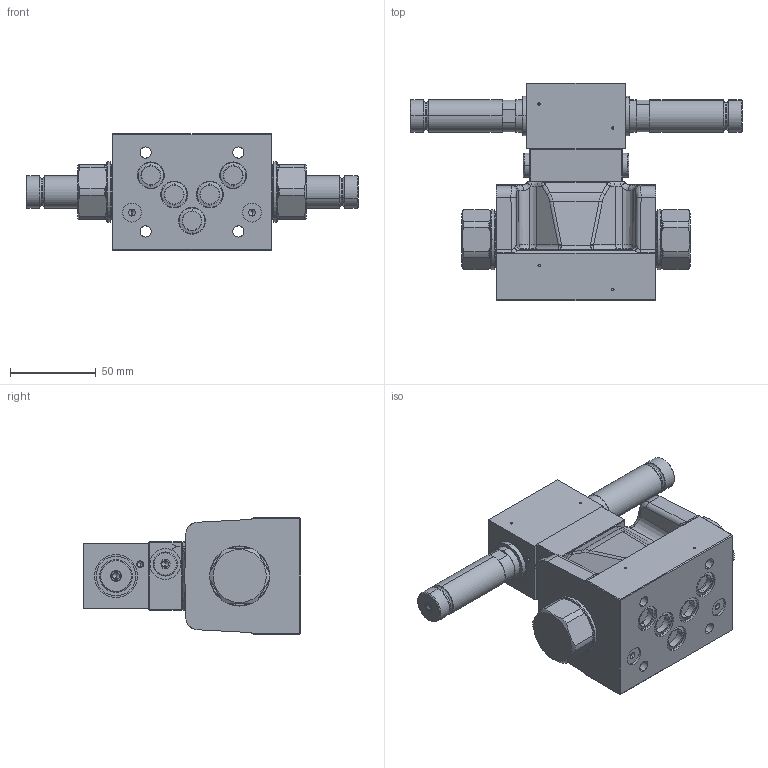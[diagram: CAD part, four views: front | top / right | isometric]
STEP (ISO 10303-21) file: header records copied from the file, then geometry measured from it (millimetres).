
FILE_DESCRIPTION (( 'STEP AP214' ), '1' );
FILE_NAME ('WVMFA10-4_3-te_pi_pe.STEP', '2017-06-15T07:27:49', ( '' ), ( '' ), 'SwSTEP 2.0', 'SolidWorks 2016', '' );
FILE_SCHEMA (( 'AUTOMOTIVE_DESIGN' ));
Length unit declared in the file: millimetre
Products named in the file (1): WVMFA10-4_3-te_pi_pe
Bounding box: 193.6 x 126.6 x 68 mm (x, y, z)
Volume: 548153.1 mm3; surface area: 84021.8 mm2
Topology: 9 solids, 11 shells, 1638 faces, 4226 edges, 2686 vertices
Faces by surface type: plane 736, cylinder 563, bspline 134, cone 126, torus 79
Entity records: 73738 total; most frequent: CARTESIAN_POINT 16239, ORIENTED_EDGE 8368, DIRECTION 8100, EDGE_CURVE 4184, AXIS2_PLACEMENT_3D 2912, VERTEX_POINT 2686, VECTOR 2276, LINE 2276
